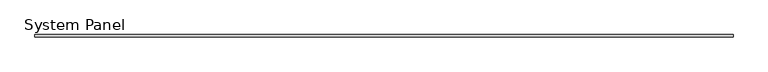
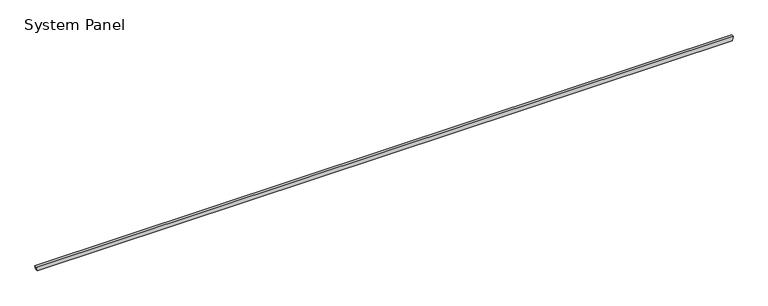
"""IFC4 building model written with IfcOpenShell, lengths in millimetres: plate geometry, System Panel : Equitilt_50mm_Plain_Surfmist."""

from ifc_helpers import new_model, si_unit, frame, origin, place, context, project, spatial, polyline, outline, extrude, source, transform, mapped, element, save


def system_panel_ba92e759(model_context):
    return source(origin(), model_context, "Body", "SweptSolid", [
        extrude(outline(polyline([(0.0, -6782.6149856), (0.0, 6782.6149856), (79.9704237, 6800.0), (79.9704237, -6800.0), (0.0, -6782.6149856)])), frame((0.0, -50.0, 0.0), z_axis=(0.0, 1.0, 0.0), x_axis=(0.0, 0.0, 1.0)), (0.0, 0.0, 1.0), 50.0),
    ])


if __name__ == "__main__":
    model = new_model("IFC4")
    model_context = context("Model", 3, world=origin())
    ifc_project = project(units=[si_unit("LENGTHUNIT", "METRE", prefix="MILLI")], contexts=[model_context])
    site = spatial("IfcSite", under=ifc_project)
    building = spatial("IfcBuilding", under=site)
    placement = place(None, origin())
    system_panel_shape = system_panel_ba92e759(model_context)
    element("IfcPlate", 1, ObjectType="System Panel : Equitilt_50mm_Plain_Surfmist", at=placement, inside=building, context=model_context, shape_type="MappedRepresentation", body=[
        mapped(system_panel_shape, transform((0.0, 0.0, 0.0), x_axis=(1.0, 0.0, 0.0), y_axis=(0.0, 1.0, 0.0), z_axis=(0.0, 0.0, 1.0))),
    ])
    save(model, "model.ifc")
